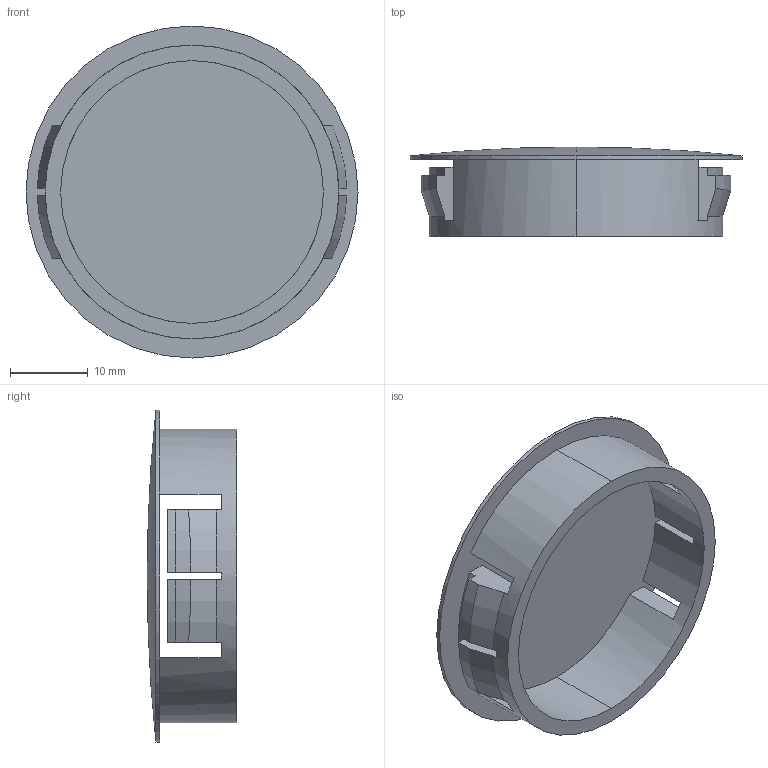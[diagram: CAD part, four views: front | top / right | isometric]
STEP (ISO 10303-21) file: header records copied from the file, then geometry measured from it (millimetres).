
FILE_DESCRIPTION (( 'STEP AP203' ), '1' );
FILE_NAME ('EBHP-17.STEP', '2013-08-03T05:19:29', ( 'SDS' ), ( 'SDS' ), 'SwSTEP 2.0', 'SolidWorks 2002296', '' );
FILE_SCHEMA (( 'CONFIG_CONTROL_DESIGN' ));
Length unit declared in the file: millimetre
Products named in the file (1): EBHP-17
Bounding box: 42.7 x 11.5 x 42.7 mm (x, y, z)
Volume: 3618 mm3; surface area: 5357.2 mm2
Topology: 1 solids, 1 shells, 48 faces, 142 edges, 93 vertices
Faces by surface type: plane 28, cylinder 18, torus 2
Entity records: 1711 total; most frequent: CARTESIAN_POINT 326, ORIENTED_EDGE 280, DIRECTION 276, EDGE_CURVE 140, AXIS2_PLACEMENT_3D 95, VERTEX_POINT 93, VECTOR 86, LINE 86
